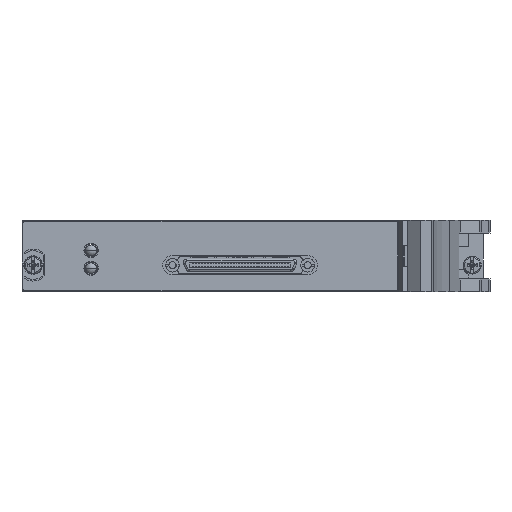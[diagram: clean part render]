
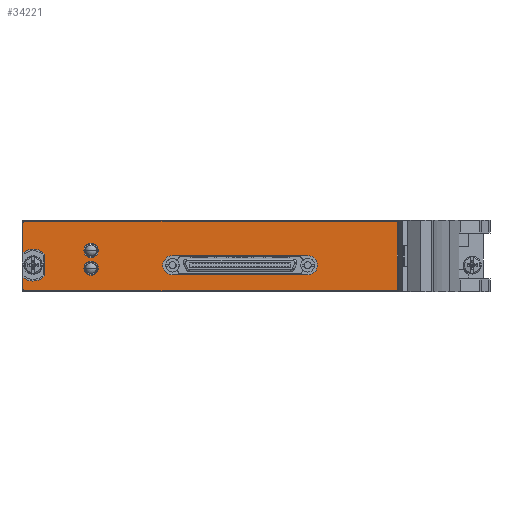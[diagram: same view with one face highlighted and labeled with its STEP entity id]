
A CAD part, left-side view. The second image highlights one B-rep face of the part: STEP entity #34221.
In plain terms, the highlighted planar face has unit normal (-1, 0, 0).
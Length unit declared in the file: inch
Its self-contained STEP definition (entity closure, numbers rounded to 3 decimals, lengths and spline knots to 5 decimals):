
#5584=CARTESIAN_POINT('',(-0.21545,0.53501,0.66599));
#5585=DIRECTION('',(-1.,0.,0.));
#5586=DIRECTION('',(0.,0.,1.));
#5587=AXIS2_PLACEMENT_3D('',#5584,#5585,#5586);
#5589=DIRECTION('',(0.,1.,0.));
#5590=VECTOR('',#5589,4.07);
#5591=CARTESIAN_POINT('',(-0.21545,-3.53499,0.68599));
#5592=LINE('',#5591,#5590);
#5593=CARTESIAN_POINT('',(-0.21545,-3.53499,0.66599));
#5594=DIRECTION('',(-1.,0.,0.));
#5595=DIRECTION('',(0.,-1.,0.));
#5596=AXIS2_PLACEMENT_3D('',#5593,#5594,#5595);
#5598=DIRECTION('',(0.,0.,1.));
#5599=VECTOR('',#5598,0.728);
#5600=CARTESIAN_POINT('',(-0.21545,-3.55499,-0.06201));
#5601=LINE('',#5600,#5599);
#5602=CARTESIAN_POINT('',(-0.21545,-3.53499,-0.06201));
#5603=DIRECTION('',(-1.,0.,0.));
#5604=DIRECTION('',(0.,0.,-1.));
#5605=AXIS2_PLACEMENT_3D('',#5602,#5603,#5604);
#5607=DIRECTION('',(0.,-1.,0.));
#5608=VECTOR('',#5607,4.07);
#5609=CARTESIAN_POINT('',(-0.21545,0.53501,-0.08201));
#5610=LINE('',#5609,#5608);
#5611=CARTESIAN_POINT('',(-0.21545,0.53501,-0.06201));
#5612=DIRECTION('',(-1.,0.,0.));
#5613=DIRECTION('',(0.,1.,0.));
#5614=AXIS2_PLACEMENT_3D('',#5611,#5612,#5613);
#5616=DIRECTION('',(0.,0.,-1.));
#5617=VECTOR('',#5616,0.12953);
#5618=CARTESIAN_POINT('',(-0.21545,0.55501,0.06753));
#5619=LINE('',#5618,#5617);
#5620=CARTESIAN_POINT('',(-0.21545,0.44301,0.20199));
#5621=DIRECTION('',(1.,0.,0.));
#5622=DIRECTION('',(0.,-0.737,-0.676));
#5623=AXIS2_PLACEMENT_3D('',#5620,#5621,#5622);
#5625=DIRECTION('',(0.,0.,-1.));
#5626=VECTOR('',#5625,0.23651);
#5627=CARTESIAN_POINT('',(-0.21545,0.31401,0.32025));
#5628=LINE('',#5627,#5626);
#5629=CARTESIAN_POINT('',(-0.21545,0.44301,0.20199));
#5630=DIRECTION('',(1.,0.,0.));
#5631=DIRECTION('',(0.,0.64,0.768));
#5632=AXIS2_PLACEMENT_3D('',#5629,#5630,#5631);
#5634=DIRECTION('',(0.,0.,-1.));
#5635=VECTOR('',#5634,0.32953);
#5636=CARTESIAN_POINT('',(-0.21545,0.55501,0.66599));
#5637=LINE('',#5636,#5635);
#5638=CARTESIAN_POINT('',(-0.21545,-1.08678,
0.20079));
#5639=DIRECTION('',(-1.,0.,0.));
#5640=DIRECTION('',(0.,0.,1.));
#5641=AXIS2_PLACEMENT_3D('',#5638,#5639,#5640);
#5643=DIRECTION('',(0.,-1.,0.));
#5644=VECTOR('',#5643,1.48425);
#5645=CARTESIAN_POINT('',(-0.21545,-1.08678,
0.09479));
#5646=LINE('',#5645,#5644);
#5647=CARTESIAN_POINT('',(-0.21545,-2.57103,
0.20079));
#5648=DIRECTION('',(-1.,0.,0.));
#5649=DIRECTION('',(0.,0.,-1.));
#5650=AXIS2_PLACEMENT_3D('',#5647,#5648,#5649);
#5652=DIRECTION('',(0.,1.,0.));
#5653=VECTOR('',#5652,1.48425);
#5654=CARTESIAN_POINT('',(-0.21545,-2.57103,
0.30679));
#5655=LINE('',#5654,#5653);
#5656=CARTESIAN_POINT('',(-0.21545,-0.1935,0.36299));
#5657=DIRECTION('',(-1.,0.,0.));
#5658=DIRECTION('',(0.,0.,1.));
#5659=AXIS2_PLACEMENT_3D('',#5656,#5657,#5658);
#5661=CARTESIAN_POINT('',(-0.21545,-0.1935,0.36299));
#5662=DIRECTION('',(-1.,0.,0.));
#5663=DIRECTION('',(0.,0.,-1.));
#5664=AXIS2_PLACEMENT_3D('',#5661,#5662,#5663);
#5666=CARTESIAN_POINT('',(-0.21545,-0.1935,0.16799));
#5667=DIRECTION('',(-1.,0.,0.));
#5668=DIRECTION('',(0.,0.,1.));
#5669=AXIS2_PLACEMENT_3D('',#5666,#5667,#5668);
#5671=CARTESIAN_POINT('',(-0.21545,-0.1935,0.16799));
#5672=DIRECTION('',(-1.,0.,0.));
#5673=DIRECTION('',(0.,0.,-1.));
#5674=AXIS2_PLACEMENT_3D('',#5671,#5672,#5673);
#22407=CARTESIAN_POINT('',(-0.21545,0.53501,0.68599));
#22408=CARTESIAN_POINT('',(-0.21545,0.55501,0.66599));
#22409=VERTEX_POINT('',#22407);
#22410=VERTEX_POINT('',#22408);
#22411=CARTESIAN_POINT('',(-0.21545,0.55501,0.33646));
#22412=VERTEX_POINT('',#22411);
#22413=CARTESIAN_POINT('',(-0.21545,0.31401,0.32025));
#22414=VERTEX_POINT('',#22413);
#22415=CARTESIAN_POINT('',(-0.21545,0.31401,0.08374));
#22416=VERTEX_POINT('',#22415);
#22417=CARTESIAN_POINT('',(-0.21545,0.55501,0.06753));
#22418=VERTEX_POINT('',#22417);
#22419=CARTESIAN_POINT('',(-0.21545,0.55501,-0.06201));
#22420=VERTEX_POINT('',#22419);
#22421=CARTESIAN_POINT('',(-0.21545,0.53501,-0.08201));
#22422=VERTEX_POINT('',#22421);
#22423=CARTESIAN_POINT('',(-0.21545,-3.53499,-0.08201));
#22424=VERTEX_POINT('',#22423);
#22425=CARTESIAN_POINT('',(-0.21545,-3.55499,-0.06201));
#22426=VERTEX_POINT('',#22425);
#22427=CARTESIAN_POINT('',(-0.21545,-3.55499,0.66599));
#22428=VERTEX_POINT('',#22427);
#22429=CARTESIAN_POINT('',(-0.21545,-3.53499,0.68599));
#22430=VERTEX_POINT('',#22429);
#22431=CARTESIAN_POINT('',(-0.21545,-1.08678,
0.30679));
#22432=CARTESIAN_POINT('',(-0.21545,-1.08678,
0.09479));
#22433=VERTEX_POINT('',#22431);
#22434=VERTEX_POINT('',#22432);
#22435=CARTESIAN_POINT('',(-0.21545,-2.57103,
0.09479));
#22436=VERTEX_POINT('',#22435);
#22437=CARTESIAN_POINT('',(-0.21545,-2.57103,
0.30679));
#22438=VERTEX_POINT('',#22437);
#22439=CARTESIAN_POINT('',(-0.21545,-0.1935,0.44149));
#22440=CARTESIAN_POINT('',(-0.21545,-0.1935,0.28449));
#22441=VERTEX_POINT('',#22439);
#22442=VERTEX_POINT('',#22440);
#22443=CARTESIAN_POINT('',(-0.21545,-0.1935,0.24649));
#22444=CARTESIAN_POINT('',(-0.21545,-0.1935,0.08949));
#22445=VERTEX_POINT('',#22443);
#22446=VERTEX_POINT('',#22444);
#34180=CARTESIAN_POINT('',(-0.21545,0.44301,0.20199));
#34181=DIRECTION('',(-1.,0.,0.));
#34182=DIRECTION('',(0.,0.,1.));
#34183=AXIS2_PLACEMENT_3D('',#34180,#34181,#34182);
#34184=PLANE('',#34183);
#34185=ORIENTED_EDGE('',*,*,#34020,.F.);
#34186=ORIENTED_EDGE('',*,*,#34035,.F.);
#34187=ORIENTED_EDGE('',*,*,#34049,.F.);
#34188=ORIENTED_EDGE('',*,*,#34063,.F.);
#34189=ORIENTED_EDGE('',*,*,#34077,.F.);
#34190=ORIENTED_EDGE('',*,*,#34091,.F.);
#34191=ORIENTED_EDGE('',*,*,#34105,.F.);
#34192=ORIENTED_EDGE('',*,*,#34119,.F.);
#34193=ORIENTED_EDGE('',*,*,#34133,.F.);
#34194=ORIENTED_EDGE('',*,*,#34147,.F.);
#34195=ORIENTED_EDGE('',*,*,#34161,.F.);
#34196=ORIENTED_EDGE('',*,*,#34174,.F.);
#34197=EDGE_LOOP('',(#34185,#34186,#34187,#34188,#34189,#34190,#34191,#34192,
#34193,#34194,#34195,#34196));
#34198=FACE_OUTER_BOUND('',#34197,.F.);
#34200=ORIENTED_EDGE('',*,*,#34199,.T.);
#34202=ORIENTED_EDGE('',*,*,#34201,.T.);
#34204=ORIENTED_EDGE('',*,*,#34203,.T.);
#34206=ORIENTED_EDGE('',*,*,#34205,.T.);
#34207=EDGE_LOOP('',(#34200,#34202,#34204,#34206));
#34208=FACE_BOUND('',#34207,.F.);
#34210=ORIENTED_EDGE('',*,*,#34209,.T.);
#34212=ORIENTED_EDGE('',*,*,#34211,.T.);
#34213=EDGE_LOOP('',(#34210,#34212));
#34214=FACE_BOUND('',#34213,.F.);
#34216=ORIENTED_EDGE('',*,*,#34215,.T.);
#34218=ORIENTED_EDGE('',*,*,#34217,.T.);
#34219=EDGE_LOOP('',(#34216,#34218));
#34220=FACE_BOUND('',#34219,.F.);
#34221=ADVANCED_FACE('',(#34198,#34208,#34214,#34220),#34184,.T.);
#5588=CIRCLE('',#5587,0.02);
#5597=CIRCLE('',#5596,0.02);
#5606=CIRCLE('',#5605,0.02);
#5615=CIRCLE('',#5614,0.02);
#5624=CIRCLE('',#5623,0.175);
#5633=CIRCLE('',#5632,0.175);
#5642=CIRCLE('',#5641,0.106);
#5651=CIRCLE('',#5650,0.106);
#5660=CIRCLE('',#5659,0.0785);
#5665=CIRCLE('',#5664,0.0785);
#5670=CIRCLE('',#5669,0.0785);
#5675=CIRCLE('',#5674,0.0785);
#34020=EDGE_CURVE('',#22409,#22410,#5588,.T.);
#34035=EDGE_CURVE('',#22430,#22409,#5592,.T.);
#34049=EDGE_CURVE('',#22428,#22430,#5597,.T.);
#34063=EDGE_CURVE('',#22426,#22428,#5601,.T.);
#34077=EDGE_CURVE('',#22424,#22426,#5606,.T.);
#34091=EDGE_CURVE('',#22422,#22424,#5610,.T.);
#34105=EDGE_CURVE('',#22420,#22422,#5615,.T.);
#34119=EDGE_CURVE('',#22418,#22420,#5619,.T.);
#34133=EDGE_CURVE('',#22416,#22418,#5624,.T.);
#34147=EDGE_CURVE('',#22414,#22416,#5628,.T.);
#34161=EDGE_CURVE('',#22412,#22414,#5633,.T.);
#34174=EDGE_CURVE('',#22410,#22412,#5637,.T.);
#34199=EDGE_CURVE('',#22433,#22434,#5642,.T.);
#34201=EDGE_CURVE('',#22434,#22436,#5646,.T.);
#34203=EDGE_CURVE('',#22436,#22438,#5651,.T.);
#34205=EDGE_CURVE('',#22438,#22433,#5655,.T.);
#34209=EDGE_CURVE('',#22441,#22442,#5660,.T.);
#34211=EDGE_CURVE('',#22442,#22441,#5665,.T.);
#34215=EDGE_CURVE('',#22445,#22446,#5670,.T.);
#34217=EDGE_CURVE('',#22446,#22445,#5675,.T.);
